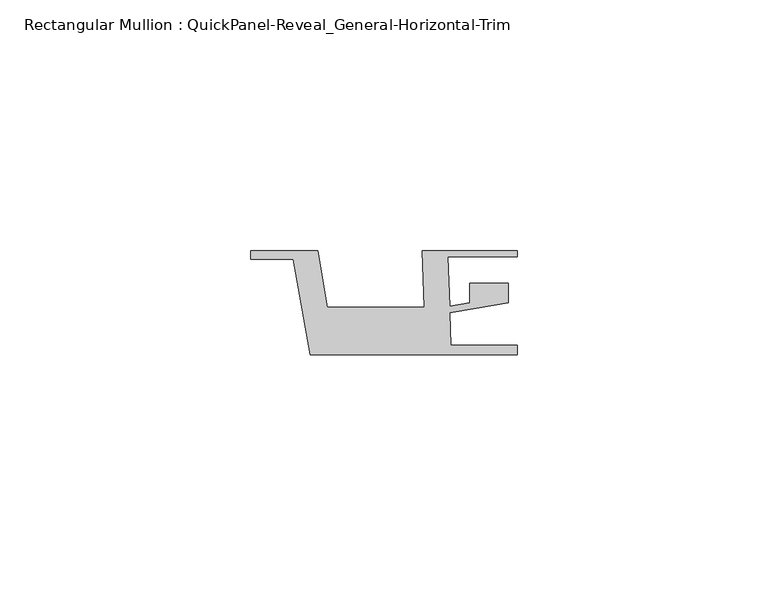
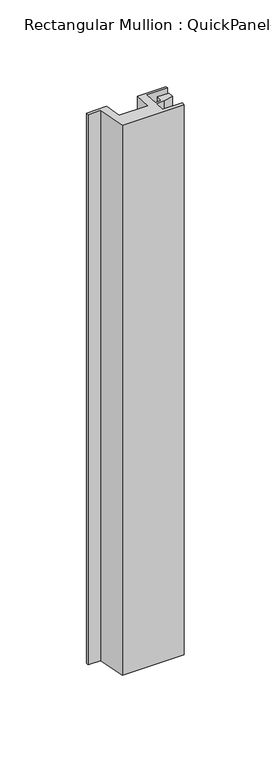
"""IFC4 building model written with IfcOpenShell, lengths in millimetres: member geometry, Rectangular Mullion : QuickPanel-Reveal_General-Horizontal-Trim."""

import ifcopenshell
import ifcopenshell.guid

model = None  # the IFC model being written
_history = None  # IfcOwnerHistory: only IFC2X3 demands one
_inside = {}  # id of a spatial element -> (the spatial element, [elements in it])
_under = {}  # id of a project, library or spatial element -> (it, [spatial elements below it])
_declared = {}  # id of a project -> (the project, [libraries it declares])
_typed = {}  # id of a type object -> (the type object, [elements of that type])
_made_of = {}  # id of a material, layer set ... -> (it, [elements and type objects made of it])


def new_model(schema):
    """Start an empty IFC model of exactly this schema.

    Asked for "IFC4X3", IfcOpenShell would pick the latest addendum, in which some entities
    have other attributes; the version numbers below select the first issue.
    IFC2X3 requires an IfcOwnerHistory on every rooted entity: one is made here for all.
    """
    global model, _history
    if schema == "IFC4X3":
        model = ifcopenshell.file(schema_version=(4, 3, 0, 0))
    else:
        model = ifcopenshell.file(schema=schema)
    _inside.clear()
    _under.clear()
    _declared.clear()
    _typed.clear()
    _made_of.clear()
    _history = None
    if model.schema == "IFC2X3":
        org = make("IfcOrganization", Name="unknown")
        user = make(
            "IfcPersonAndOrganization",
            ThePerson=make("IfcPerson", FamilyName="unknown"),
            TheOrganization=org,
        )
        app = make(
            "IfcApplication",
            ApplicationDeveloper=org,
            Version="unknown",
            ApplicationFullName="unknown",
            ApplicationIdentifier="unknown",
        )
        _history = make(
            "IfcOwnerHistory",
            OwningUser=user,
            OwningApplication=app,
            ChangeAction="ADDED",
            CreationDate=0,
        )
    return model


def make(cls, **values):
    """One entity of the class cls with the attributes given. An attribute that is None is left unset."""
    return model.create_entity(
        cls, **{name: value for name, value in values.items() if value is not None}
    )


def rooted(cls, **values):
    """An entity with a GlobalId (a new one), such as an element, a storey or a relation."""
    return make(cls, GlobalId=ifcopenshell.guid.new(), OwnerHistory=_history, **values)


def si_unit(unit_type, name, prefix=None):
    """IfcSIUnit, for example si_unit("LENGTHUNIT", "METRE", prefix="MILLI")."""
    return make("IfcSIUnit", UnitType=unit_type, Prefix=prefix, Name=name)


def assignment(units):
    """IfcUnitAssignment: the units of a project."""
    return None if units is None else make("IfcUnitAssignment", Units=units)


def point(xyz):
    """IfcCartesianPoint."""
    return None if xyz is None else make("IfcCartesianPoint", Coordinates=xyz)


def direction(xyz):
    """IfcDirection."""
    return None if xyz is None else make("IfcDirection", DirectionRatios=xyz)


def frame(location, z_axis=None, x_axis=None):
    """IfcAxis2Placement3D, a coordinate frame: its origin and axes. An axis left out is left unset."""
    return make(
        "IfcAxis2Placement3D",
        Location=point(location),
        Axis=direction(z_axis),
        RefDirection=direction(x_axis),
    )


def origin():
    """The frame at (0, 0, 0) with its axes left unset."""
    return frame((0.0, 0.0, 0.0))


def place(relative_to, where):
    """IfcLocalPlacement: puts the frame where relative to a parent placement (None: the world)."""
    return make(
        "IfcLocalPlacement", PlacementRelTo=relative_to, RelativePlacement=where
    )


def context(
    kind, dimensions, precision=None, world=None, true_north=None, identifier=None
):
    """IfcGeometricRepresentationContext, for example the 3D "Model" context."""
    return make(
        "IfcGeometricRepresentationContext",
        ContextIdentifier=identifier,
        ContextType=kind,
        CoordinateSpaceDimension=dimensions,
        Precision=precision,
        WorldCoordinateSystem=world,
        TrueNorth=true_north,
    )


def project(units=None, contexts=None):
    """IfcProject with its units and contexts."""
    return rooted(
        "IfcProject",
        Name="project",
        RepresentationContexts=contexts,
        UnitsInContext=assignment(units),
    )


def spatial(cls, under=None, at=None, **own):
    """A site, building, storey or space (cls), placed at a placement, below another one or the project."""
    s = rooted(cls, ObjectPlacement=at, **own)
    if under is not None:
        _under.setdefault(under.id(), (under, []))[1].append(s)
    return s


def polyline(points):
    """IfcPolyline through the points."""
    return make("IfcPolyline", Points=[point(p) for p in points])


def outline(outer, holes=None, kind="AREA"):
    """IfcArbitraryClosedProfileDef: a profile drawn as a closed curve; with holes, ...WithVoids."""
    if holes is None:
        return make("IfcArbitraryClosedProfileDef", ProfileType=kind, OuterCurve=outer)
    return make(
        "IfcArbitraryProfileDefWithVoids",
        ProfileType=kind,
        OuterCurve=outer,
        InnerCurves=holes,
    )


def extrude(swept, where, along, depth):
    """IfcExtrudedAreaSolid: the profile swept, set in the frame where, extruded along a direction by depth."""
    return make(
        "IfcExtrudedAreaSolid",
        SweptArea=swept,
        Position=where,
        ExtrudedDirection=direction(along),
        Depth=depth,
    )


def shape(context_of_items, identifier, shape_type, items):
    """IfcShapeRepresentation: the items that make up one representation, for example the "Body"."""
    return make(
        "IfcShapeRepresentation",
        ContextOfItems=context_of_items,
        RepresentationIdentifier=identifier,
        RepresentationType=shape_type,
        Items=items,
    )


def source(mapping_origin, context_of_items, identifier, shape_type, items):
    """IfcRepresentationMap: a shape defined once, which mapped items show again and again."""
    return make(
        "IfcRepresentationMap",
        MappingOrigin=mapping_origin,
        MappedRepresentation=shape(context_of_items, identifier, shape_type, items),
    )


def transform(
    local_origin,
    x_axis=None,
    y_axis=None,
    z_axis=None,
    scale=None,
    scale2=None,
    scale3=None,
    uniform=True,
):
    """IfcCartesianTransformationOperator3D, or its non-uniform kind. x_axis, y_axis, z_axis: its Axis1, 2, 3."""
    if uniform:
        return make(
            "IfcCartesianTransformationOperator3D",
            Axis1=direction(x_axis),
            Axis2=direction(y_axis),
            LocalOrigin=point(local_origin),
            Scale=scale,
            Axis3=direction(z_axis),
        )
    return make(
        "IfcCartesianTransformationOperator3DnonUniform",
        Axis1=direction(x_axis),
        Axis2=direction(y_axis),
        LocalOrigin=point(local_origin),
        Scale=scale,
        Axis3=direction(z_axis),
        Scale2=scale2,
        Scale3=scale3,
    )


def mapped(mapping_source, mapping_target):
    """IfcMappedItem: shows the shape of a source again, moved by a transform."""
    return make(
        "IfcMappedItem", MappingSource=mapping_source, MappingTarget=mapping_target
    )


def made_of(thing, what):
    """Note that an element or type object is made of a material, layer set ...; save() writes the relation."""
    if what is not None:
        _made_of.setdefault(what.id(), (what, []))[1].append(thing)
    return thing


def element(
    cls,
    number,
    at=None,
    inside=None,
    cuts=None,
    type_object=None,
    material=None,
    context=None,
    identifier="Body",
    shape_type=None,
    held_by="IfcProductDefinitionShape",
    body=None,
    shapes=None,
    **own,
):
    """One element of the class cls, such as IfcWall. Its Tag is "e" and its number.

    at: its placement. inside: the storey or other place that contains it. cuts: it is an
    opening in that element (IfcRelVoidsElement). A single representation is given by context,
    identifier, shape_type and body (its items); several are given by shapes. held_by: the class
    of the entity that holds the representations. save() writes the other relations.
    """
    e = rooted(cls, Tag="e%d" % number, ObjectPlacement=at, **own)
    if body is not None:
        shapes = [shape(context, identifier, shape_type, body)]
    if shapes is not None:
        e.Representation = make(held_by, Representations=shapes)
    if inside is not None:
        _inside.setdefault(inside.id(), (inside, []))[1].append(e)
    if cuts is not None:
        rooted(
            "IfcRelVoidsElement", RelatingBuildingElement=cuts, RelatedOpeningElement=e
        )
    if type_object is not None:
        _typed.setdefault(type_object.id(), (type_object, []))[1].append(e)
    return made_of(e, material)


def aggregate(whole, parts):
    """IfcRelAggregates: a whole, such as a stair, and the parts it consists of."""
    return rooted("IfcRelAggregates", RelatingObject=whole, RelatedObjects=parts)


def save(model, path):
    """Write the relations noted so far, then the file.

    IfcRelAggregates (storeys below a building ...), IfcRelContainedInSpatialStructure (elements
    in a storey), IfcRelDefinesByType, IfcRelAssociatesMaterial and IfcRelDeclares: one each for
    every whole, place, type object, material and project.
    """
    for whole, parts in _under.values():
        aggregate(whole, parts)
    for where, things in _inside.values():
        rooted(
            "IfcRelContainedInSpatialStructure",
            RelatedElements=things,
            RelatingStructure=where,
        )
    for kind, things in _typed.values():
        rooted("IfcRelDefinesByType", RelatedObjects=things, RelatingType=kind)
    for what, things in _made_of.values():
        rooted("IfcRelAssociatesMaterial", RelatedObjects=things, RelatingMaterial=what)
    for by, libraries in _declared.values():
        rooted("IfcRelDeclares", RelatingContext=by, RelatedDefinitions=libraries)
    model.write(path)


def rectangular_mullion_quickpanel_reveal_general_horizontal_8d35d81b(model_context):
    return source(origin(), model_context, "Body", "SweptSolid", [
        extrude(outline(polyline([(28.3897075, -8.6293878), (-12.9047811, -8.6293878), (-16.27755, 10.4985348), (-24.8029806, 10.4985348), (-24.8029806, 12.1803727), (-11.4233548, 12.1803727), (-9.490275, 0.9043028), (9.8003757, 0.9043028), (9.4066067, 12.1803727), (28.3897075, 12.1803727), (28.3897075, 10.9303752), (14.533354, 10.9303752), (14.8772811, 1.0815922), (18.86285, 1.7648465), (18.86285, 5.6493034), (26.6076231, 5.6493034), (26.6076231, 1.8040245), (20.1722905, 0.7008023), (14.9220096, -0.1992641), (15.1487948, -6.6935423), (28.3897075, -6.6935423), (28.3897075, -8.6293878)])), frame((0.0, 0.0, -387.814328), z_axis=(0.0, 0.0, 1.0), x_axis=(1.0, 0.0, 0.0)), (0.0, 0.0, 1.0), 387.814328),
    ])


if __name__ == "__main__":
    model = new_model("IFC4")
    model_context = context("Model", 3, world=origin())
    ifc_project = project(units=[si_unit("LENGTHUNIT", "METRE", prefix="MILLI")], contexts=[model_context])
    site = spatial("IfcSite", under=ifc_project)
    building = spatial("IfcBuilding", under=site)
    placement = place(None, origin())
    rectangular_mullion_quickpanel_reveal_general_horizontal_shape = rectangular_mullion_quickpanel_reveal_general_horizontal_8d35d81b(model_context)
    element("IfcMember", 1, ObjectType="Rectangular Mullion : QuickPanel-Reveal_General-Horizontal-Trim", at=placement, inside=building, context=model_context, shape_type="MappedRepresentation", body=[
        mapped(rectangular_mullion_quickpanel_reveal_general_horizontal_shape, transform((0.0, 0.0, 0.0), x_axis=(1.0, 0.0, 0.0), y_axis=(0.0, 1.0, 0.0), z_axis=(0.0, 0.0, 1.0))),
    ])
    save(model, "model.ifc")
